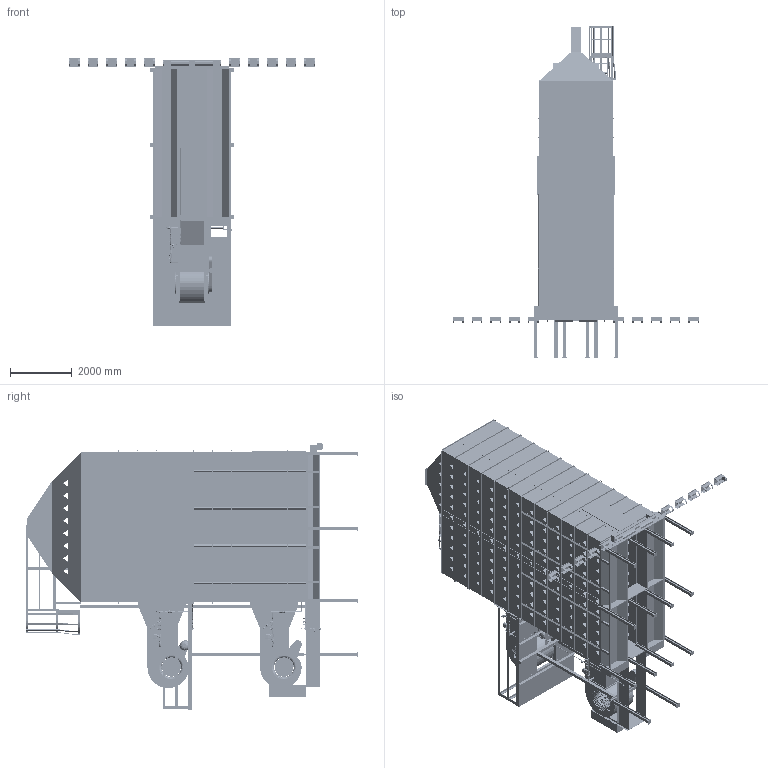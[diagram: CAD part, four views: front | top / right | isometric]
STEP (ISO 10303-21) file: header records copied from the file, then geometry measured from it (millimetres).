
FILE_DESCRIPTION(/* description */ ('PLAN AND ELEVATION VIEW FOR D16140 WITH ROOF & GRAVITY FILL'),/* implementation_level */ '2;1');
FILE_NAME(/* name */ 'C:\Engineering\Designs\Sales\Dryer\Workspaces\D16 All\D16140GF.stp',/* time_stamp */ '2025-01-06T16:49:26-06:00',/* author */ ('max.fleming'),/* organization */ (''),/* preprocessor_version */ 'ST-DEVELOPER v18.1',/* originating_system */ 'Autodesk Inventor 2022',/* authorisation */ '');
FILE_SCHEMA (('AUTOMOTIVE_DESIGN { 1 0 10303 214 3 1 1 }'));
Products named in the file (28): D16140GF; 16FT FRAME; 8FT LHRH FRAME; 16FT CATWALK; 16FT Grav Assy; 16FT ROOF GF; 8FTRoof GF LHRH; Tongue; 16FT BODY TIER; LH Body; RH Body; LH Body_MIR6; RH Body_MIR6; Outside Splice; Standard Size End Plenum Panels; Ladder 2' section; Trans & Blower; Belt Shield; Screen Guard; LP Fuel; Stiffeners; Platform; Platform Support 1-T; 1 Tier Vertical Support; 6'' CROSS AUGER; Leg Kit-02; LP Inlet; Liquid Propane Pipe
Assembly tree (137 placements, depth 3):
  D16140GF
    16FT FRAME
      8FT LHRH FRAME  x2
    16FT CATWALK
    16FT Grav Assy
    16FT ROOF GF
      8FTRoof GF LHRH  x2
    Tongue
    16FT BODY TIER  x12
      LH Body
      RH Body
      LH Body_MIR6
      RH Body_MIR6
      Outside Splice
    Leg Kit-02  x12
    Standard Size End Plenum Panels  x21
    Trans & Blower  x2
    Belt Shield  x2
    Screen Guard  x4
    LP Fuel  x2
    Stiffeners  x48
    Platform
    Platform Support 1-T
    1 Tier Vertical Support  x10
    LP Inlet
    Liquid Propane Pipe  x6
  Ladder 2' section
  6'' CROSS AUGER
Bounding box: 8007.35 x 10777.94 x 8695.06 mm (x, y, z)
Volume: 63793260357 mm3; surface area: 890874708.2 mm2
Topology: 497 solids, 655 shells, 38097 faces, 98569 edges, 62967 vertices
Faces by surface type: plane 18048, cylinder 11113, bspline 3771, cone 3392, torus 1591, sphere 182
Full cylindrical faces by diameter (mm): 1 x10, 1.651 x6, 1.753 x6, 1.778 x12, 2.019 x4, 2.108 x2, 2.286 x24, 2.489 x2, 2.54 x4, 3.091 x288, 3.175 x5, 3.251 x20, 3.306 x288, 3.522 x2, 3.658 x28, 3.8 x16, 4 x384, 4.039 x20, 4.166 x256, 4.191 x4, 4.229 x2, 4.267 x2, 4.369 x8, 4.445 x8, 4.701 x592, 4.762 x16, 4.851 x8, 4.928 x32, 5.283 x2, 5.527 x20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
Entity records: 736045 total; most frequent: CARTESIAN_POINT 335350, ORIENTED_EDGE 83916, DIRECTION 74984, EDGE_CURVE 42098, VERTEX_POINT 26860, AXIS2_PLACEMENT_3D 26177, LINE 22630, VECTOR 22630
